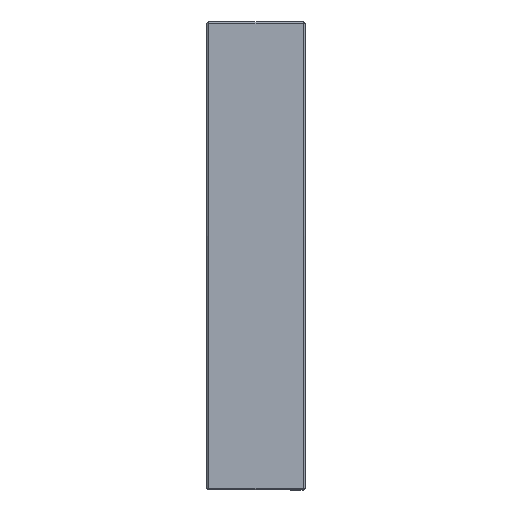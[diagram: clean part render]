
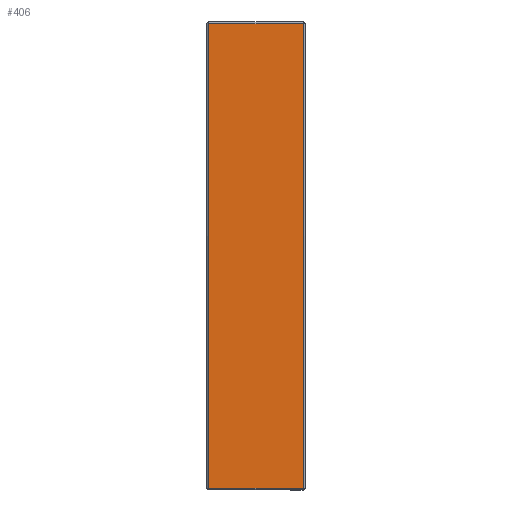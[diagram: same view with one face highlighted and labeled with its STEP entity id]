
A CAD part, left-side view. The second image highlights one B-rep face of the part: STEP entity #406.
In plain terms, the highlighted planar face has unit normal (-1, 0, 0).
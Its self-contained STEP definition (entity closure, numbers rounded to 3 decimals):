
#261 = CARTESIAN_POINT ( 'NONE',  ( -494.328, 262.043, 796.925 ) ) ;
#406 = ADVANCED_FACE ( 'NONE', ( #6487 ), #1314, .F. ) ;
#457 = CARTESIAN_POINT ( 'NONE',  ( -494.328, 406.443, 87.525 ) ) ;
#642 = CARTESIAN_POINT ( 'NONE',  ( -494.328, 406.443, 796.925 ) ) ;
#865 = DIRECTION ( 'NONE',  ( 0., -1., 0. ) ) ;
#1093 = ORIENTED_EDGE ( 'NONE', *, *, #8384, .T. ) ;
#1314 = PLANE ( 'NONE',  #3652 ) ;
#1955 = EDGE_CURVE ( 'NONE', #8880, #3139, #8255, .T. ) ;
#2482 = LINE ( 'NONE', #5269, #7980 ) ;
#2706 = LINE ( 'NONE', #5494, #7892 ) ;
#3139 = VERTEX_POINT ( 'NONE', #261 ) ;
#3409 = EDGE_LOOP ( 'NONE', ( #7705, #5045, #1093, #4730 ) ) ;
#3652 = AXIS2_PLACEMENT_3D ( 'NONE', #8299, #4133, #8991 ) ;
#3787 = EDGE_CURVE ( 'NONE', #8653, #8880, #2706, .T. ) ;
#4133 = DIRECTION ( 'NONE',  ( 1., 0., 0. ) ) ;
#4729 = CARTESIAN_POINT ( 'NONE',  ( -494.328, 262.043, 87.525 ) ) ;
#4730 = ORIENTED_EDGE ( 'NONE', *, *, #3787, .T. ) ;
#5011 = VECTOR ( 'NONE', #5489, 1000. ) ;
#5045 = ORIENTED_EDGE ( 'NONE', *, *, #8197, .F. ) ;
#5056 = CARTESIAN_POINT ( 'NONE',  ( -494.328, 262.043, 87.525 ) ) ;
#5269 = CARTESIAN_POINT ( 'NONE',  ( -494.328, 409.243, 796.925 ) ) ;
#5489 = DIRECTION ( 'NONE',  ( 0., 0., -1. ) ) ;
#5494 = CARTESIAN_POINT ( 'NONE',  ( -494.328, 409.243, 87.525 ) ) ;
#6460 = CARTESIAN_POINT ( 'NONE',  ( -494.328, 406.443, 796.925 ) ) ;
#6487 = FACE_OUTER_BOUND ( 'NONE', #3409, .T. ) ;
#6876 = DIRECTION ( 'NONE',  ( 0., 0., 1. ) ) ;
#7347 = VERTEX_POINT ( 'NONE', #6460 ) ;
#7705 = ORIENTED_EDGE ( 'NONE', *, *, #1955, .T. ) ;
#7892 = VECTOR ( 'NONE', #865, 1000. ) ;
#7980 = VECTOR ( 'NONE', #8098, 1000. ) ;
#8098 = DIRECTION ( 'NONE',  ( 0., -1., 0. ) ) ;
#8197 = EDGE_CURVE ( 'NONE', #7347, #3139, #2482, .T. ) ;
#8255 = LINE ( 'NONE', #4729, #8921 ) ;
#8299 = CARTESIAN_POINT ( 'NONE',  ( -494.328, 409.243, 84.725 ) ) ;
#8384 = EDGE_CURVE ( 'NONE', #7347, #8653, #9013, .T. ) ;
#8653 = VERTEX_POINT ( 'NONE', #457 ) ;
#8880 = VERTEX_POINT ( 'NONE', #5056 ) ;
#8921 = VECTOR ( 'NONE', #6876, 1000. ) ;
#8991 = DIRECTION ( 'NONE',  ( 0., 0., -1. ) ) ;
#9013 = LINE ( 'NONE', #642, #5011 ) ;
